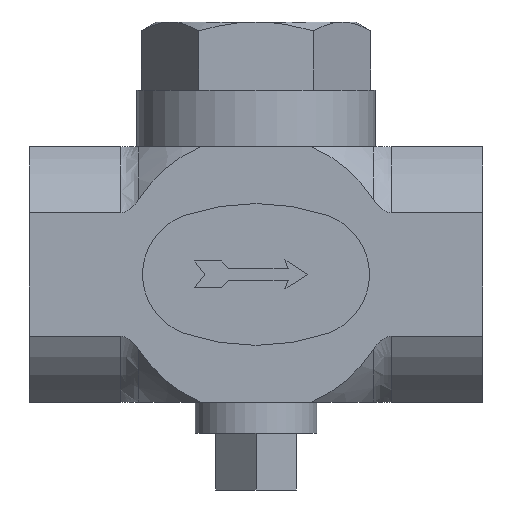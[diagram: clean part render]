
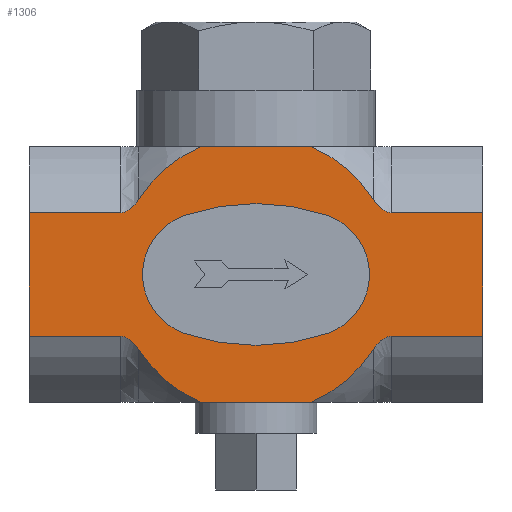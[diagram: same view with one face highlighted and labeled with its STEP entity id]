
A CAD part, front view. The second image highlights one B-rep face of the part: STEP entity #1306.
In plain terms, the highlighted planar face has unit normal (0, -1, 0).
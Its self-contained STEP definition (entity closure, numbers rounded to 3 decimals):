
#59=PLANE('',#1450);
#67=LINE('',#1990,#159);
#68=LINE('',#2016,#160);
#136=LINE('',#2302,#228);
#139=LINE('',#2311,#231);
#147=LINE('',#2341,#239);
#149=LINE('',#2344,#241);
#151=LINE('',#2347,#243);
#152=LINE('',#2348,#244);
#159=VECTOR('',#1540,16.188);
#160=VECTOR('',#1549,16.188);
#228=VECTOR('',#1765,16.188);
#231=VECTOR('',#1774,16.188);
#239=VECTOR('',#1814,19.647);
#241=VECTOR('',#1818,21.794);
#243=VECTOR('',#1822,21.794);
#244=VECTOR('',#1823,19.647);
#263=B_SPLINE_CURVE_WITH_KNOTS('',3,(#1976,#1977,#1978,#1979,#1980,#1981,
#1982,#1983),.UNSPECIFIED.,.F.,.F.,(4,2,2,4),(1.934,2.001,
2.081,2.314),.UNSPECIFIED.);
#264=B_SPLINE_CURVE_WITH_KNOTS('',3,(#1994,#1995,#1996,#1997,#1998,#1999,
#2000,#2001),.UNSPECIFIED.,.F.,.F.,(4,2,2,4),(1.555,1.788,
1.867,1.934),.UNSPECIFIED.);
#266=B_SPLINE_CURVE_WITH_KNOTS('',3,(#2023,#2024,#2025,#2026,#2027,#2028,
#2029,#2030),.UNSPECIFIED.,.F.,.F.,(4,2,2,4),(1.934,2.001,
2.081,2.314),.UNSPECIFIED.);
#269=B_SPLINE_CURVE_WITH_KNOTS('',3,(#2061,#2062,#2063,#2064,#2065,#2066,
#2067,#2068),.UNSPECIFIED.,.F.,.F.,(4,2,2,4),(1.555,1.788,
1.867,1.934),.UNSPECIFIED.);
#312=FACE_BOUND('',#472,.T.);
#313=FACE_BOUND('',#473,.T.);
#472=EDGE_LOOP('',(#1177,#1178,#1179,#1180));
#473=EDGE_LOOP('',(#1181,#1182,#1183,#1184,#1185,#1186,#1187,#1188,#1189,
#1190,#1191,#1192,#1193,#1194,#1195,#1196));
#507=CIRCLE('',#1361,24.551);
#512=CIRCLE('',#1368,24.551);
#513=CIRCLE('',#1383,38.75);
#515=CIRCLE('',#1386,11.);
#517=CIRCLE('',#1389,38.75);
#519=CIRCLE('',#1392,11.);
#539=CIRCLE('',#1443,24.551);
#542=CIRCLE('',#1447,24.551);
#574=VERTEX_POINT('',#1973);
#575=VERTEX_POINT('',#1975);
#577=VERTEX_POINT('',#1988);
#578=VERTEX_POINT('',#1992);
#579=VERTEX_POINT('',#1993);
#582=VERTEX_POINT('',#2015);
#584=VERTEX_POINT('',#2021);
#585=VERTEX_POINT('',#2022);
#588=VERTEX_POINT('',#2044);
#591=VERTEX_POINT('',#2058);
#592=VERTEX_POINT('',#2060);
#593=VERTEX_POINT('',#2071);
#618=VERTEX_POINT('',#2148);
#619=VERTEX_POINT('',#2149);
#622=VERTEX_POINT('',#2157);
#624=VERTEX_POINT('',#2163);
#658=VERTEX_POINT('',#2301);
#661=VERTEX_POINT('',#2309);
#666=VERTEX_POINT('',#2332);
#667=VERTEX_POINT('',#2336);
#703=EDGE_CURVE('',#574,#575,#263,.T.);
#707=EDGE_CURVE('',#574,#577,#67,.T.);
#708=EDGE_CURVE('',#578,#579,#264,.T.);
#712=EDGE_CURVE('',#582,#579,#68,.T.);
#715=EDGE_CURVE('',#584,#585,#266,.T.);
#719=EDGE_CURVE('',#588,#585,#507,.T.);
#723=EDGE_CURVE('',#591,#592,#269,.T.);
#726=EDGE_CURVE('',#591,#593,#512,.T.);
#763=EDGE_CURVE('',#618,#619,#513,.T.);
#767=EDGE_CURVE('',#622,#618,#515,.T.);
#770=EDGE_CURVE('',#624,#622,#517,.T.);
#773=EDGE_CURVE('',#619,#624,#519,.T.);
#824=EDGE_CURVE('',#658,#592,#136,.T.);
#829=EDGE_CURVE('',#584,#661,#139,.T.);
#841=EDGE_CURVE('',#666,#575,#539,.T.);
#844=EDGE_CURVE('',#578,#667,#542,.T.);
#846=EDGE_CURVE('',#588,#667,#147,.T.);
#848=EDGE_CURVE('',#582,#577,#149,.T.);
#850=EDGE_CURVE('',#658,#661,#151,.T.);
#851=EDGE_CURVE('',#593,#666,#152,.T.);
#1177=ORIENTED_EDGE('',*,*,#763,.T.);
#1178=ORIENTED_EDGE('',*,*,#773,.T.);
#1179=ORIENTED_EDGE('',*,*,#770,.T.);
#1180=ORIENTED_EDGE('',*,*,#767,.T.);
#1181=ORIENTED_EDGE('',*,*,#829,.T.);
#1182=ORIENTED_EDGE('',*,*,#850,.F.);
#1183=ORIENTED_EDGE('',*,*,#824,.T.);
#1184=ORIENTED_EDGE('',*,*,#723,.F.);
#1185=ORIENTED_EDGE('',*,*,#726,.T.);
#1186=ORIENTED_EDGE('',*,*,#851,.T.);
#1187=ORIENTED_EDGE('',*,*,#841,.T.);
#1188=ORIENTED_EDGE('',*,*,#703,.F.);
#1189=ORIENTED_EDGE('',*,*,#707,.T.);
#1190=ORIENTED_EDGE('',*,*,#848,.F.);
#1191=ORIENTED_EDGE('',*,*,#712,.T.);
#1192=ORIENTED_EDGE('',*,*,#708,.F.);
#1193=ORIENTED_EDGE('',*,*,#844,.T.);
#1194=ORIENTED_EDGE('',*,*,#846,.F.);
#1195=ORIENTED_EDGE('',*,*,#719,.T.);
#1196=ORIENTED_EDGE('',*,*,#715,.F.);
#1306=ADVANCED_FACE('',(#312,#313),#59,.T.);
#1361=AXIS2_PLACEMENT_3D('',#2045,#1561,#1562);
#1368=AXIS2_PLACEMENT_3D('',#2073,#1575,#1576);
#1383=AXIS2_PLACEMENT_3D('',#2150,#1641,#1642);
#1386=AXIS2_PLACEMENT_3D('',#2158,#1649,#1650);
#1389=AXIS2_PLACEMENT_3D('',#2164,#1656,#1657);
#1392=AXIS2_PLACEMENT_3D('',#2169,#1663,#1664);
#1443=AXIS2_PLACEMENT_3D('',#2333,#1801,#1802);
#1447=AXIS2_PLACEMENT_3D('',#2338,#1809,#1810);
#1450=AXIS2_PLACEMENT_3D('',#2346,#1820,#1821);
#1540=DIRECTION('',(-1.,0.,0.));
#1549=DIRECTION('',(1.,0.,0.));
#1561=DIRECTION('center_axis',(0.,-1.,0.));
#1562=DIRECTION('ref_axis',(0.,0.,1.));
#1575=DIRECTION('center_axis',(0.,-1.,0.));
#1576=DIRECTION('ref_axis',(0.,0.,1.));
#1641=DIRECTION('center_axis',(0.,1.,0.));
#1642=DIRECTION('ref_axis',(-0.324,0.,-0.946));
#1649=DIRECTION('center_axis',(0.,1.,0.));
#1650=DIRECTION('ref_axis',(0.313,0.,-0.95));
#1656=DIRECTION('center_axis',(0.,1.,0.));
#1657=DIRECTION('ref_axis',(0.324,0.,0.946));
#1663=DIRECTION('center_axis',(0.,1.,0.));
#1664=DIRECTION('ref_axis',(-0.281,0.,0.96));
#1765=DIRECTION('',(-1.,0.,0.));
#1774=DIRECTION('',(1.,0.,0.));
#1801=DIRECTION('center_axis',(0.,-1.,0.));
#1802=DIRECTION('ref_axis',(0.,0.,1.));
#1809=DIRECTION('center_axis',(0.,-1.,0.));
#1810=DIRECTION('ref_axis',(0.,0.,1.));
#1814=DIRECTION('',(-1.,0.,0.));
#1818=DIRECTION('',(0.,0.,1.));
#1820=DIRECTION('center_axis',(0.,-1.,0.));
#1821=DIRECTION('ref_axis',(0.,0.,-1.));
#1822=DIRECTION('',(0.,0.,-1.));
#1823=DIRECTION('',(-1.,0.,0.));
#1973=CARTESIAN_POINT('',(-23.812,-22.5,10.897));
#1975=CARTESIAN_POINT('',(-20.704,-22.5,13.195));
#1976=CARTESIAN_POINT('Ctrl Pts',(-23.812,-22.5,10.897));
#1977=CARTESIAN_POINT('Ctrl Pts',(-23.588,-22.5,10.897));
#1978=CARTESIAN_POINT('Ctrl Pts',(-23.322,-22.5,10.942));
#1979=CARTESIAN_POINT('Ctrl Pts',(-22.858,-22.5,11.092));
#1980=CARTESIAN_POINT('Ctrl Pts',(-22.576,-22.5,11.237));
#1981=CARTESIAN_POINT('Ctrl Pts',(-21.713,-22.5,11.819));
#1982=CARTESIAN_POINT('Ctrl Pts',(-21.123,-22.5,12.538));
#1983=CARTESIAN_POINT('Ctrl Pts',(-20.704,-22.5,13.195));
#1988=CARTESIAN_POINT('',(-40.,-22.5,10.897));
#1990=CARTESIAN_POINT('',(-36.,-22.5,10.897));
#1992=CARTESIAN_POINT('',(-20.704,-22.5,-13.195));
#1993=CARTESIAN_POINT('',(-23.812,-22.5,-10.897));
#1994=CARTESIAN_POINT('Ctrl Pts',(-20.704,-22.5,-13.195));
#1995=CARTESIAN_POINT('Ctrl Pts',(-21.123,-22.5,-12.538));
#1996=CARTESIAN_POINT('Ctrl Pts',(-21.713,-22.5,-11.819));
#1997=CARTESIAN_POINT('Ctrl Pts',(-22.576,-22.5,-11.237));
#1998=CARTESIAN_POINT('Ctrl Pts',(-22.858,-22.5,-11.092));
#1999=CARTESIAN_POINT('Ctrl Pts',(-23.322,-22.5,-10.942));
#2000=CARTESIAN_POINT('Ctrl Pts',(-23.588,-22.5,-10.897));
#2001=CARTESIAN_POINT('Ctrl Pts',(-23.812,-22.5,-10.897));
#2015=CARTESIAN_POINT('',(-40.,-22.5,-10.897));
#2016=CARTESIAN_POINT('',(-36.,-22.5,-10.897));
#2021=CARTESIAN_POINT('',(23.812,-22.5,-10.897));
#2022=CARTESIAN_POINT('',(20.704,-22.5,-13.195));
#2023=CARTESIAN_POINT('Ctrl Pts',(23.812,-22.5,-10.897));
#2024=CARTESIAN_POINT('Ctrl Pts',(23.588,-22.5,-10.897));
#2025=CARTESIAN_POINT('Ctrl Pts',(23.322,-22.5,-10.942));
#2026=CARTESIAN_POINT('Ctrl Pts',(22.858,-22.5,-11.092));
#2027=CARTESIAN_POINT('Ctrl Pts',(22.576,-22.5,-11.237));
#2028=CARTESIAN_POINT('Ctrl Pts',(21.713,-22.5,-11.819));
#2029=CARTESIAN_POINT('Ctrl Pts',(21.123,-22.5,-12.538));
#2030=CARTESIAN_POINT('Ctrl Pts',(20.704,-22.5,-13.195));
#2044=CARTESIAN_POINT('',(9.823,-22.5,-22.5));
#2045=CARTESIAN_POINT('Origin',(0.,-22.5,0.));
#2058=CARTESIAN_POINT('',(20.704,-22.5,13.195));
#2060=CARTESIAN_POINT('',(23.812,-22.5,10.897));
#2061=CARTESIAN_POINT('Ctrl Pts',(20.704,-22.5,13.195));
#2062=CARTESIAN_POINT('Ctrl Pts',(21.123,-22.5,12.538));
#2063=CARTESIAN_POINT('Ctrl Pts',(21.713,-22.5,11.819));
#2064=CARTESIAN_POINT('Ctrl Pts',(22.576,-22.5,11.237));
#2065=CARTESIAN_POINT('Ctrl Pts',(22.858,-22.5,11.092));
#2066=CARTESIAN_POINT('Ctrl Pts',(23.322,-22.5,10.942));
#2067=CARTESIAN_POINT('Ctrl Pts',(23.588,-22.5,10.897));
#2068=CARTESIAN_POINT('Ctrl Pts',(23.812,-22.5,10.897));
#2071=CARTESIAN_POINT('',(9.823,-22.5,22.5));
#2073=CARTESIAN_POINT('Origin',(0.,-22.5,0.));
#2148=CARTESIAN_POINT('',(12.568,-22.5,-10.405));
#2149=CARTESIAN_POINT('',(-12.568,-22.5,-10.405));
#2150=CARTESIAN_POINT('Origin',(0.,-22.5,26.25));
#2157=CARTESIAN_POINT('',(12.568,-22.5,10.405));
#2158=CARTESIAN_POINT('Origin',(9.,-22.5,0.));
#2163=CARTESIAN_POINT('',(-12.568,-22.5,10.405));
#2164=CARTESIAN_POINT('Origin',(0.,-22.5,-26.25));
#2169=CARTESIAN_POINT('Origin',(-9.,-22.5,0.));
#2301=CARTESIAN_POINT('',(40.,-22.5,10.897));
#2302=CARTESIAN_POINT('',(36.,-22.5,10.897));
#2309=CARTESIAN_POINT('',(40.,-22.5,-10.897));
#2311=CARTESIAN_POINT('',(36.,-22.5,-10.897));
#2332=CARTESIAN_POINT('',(-9.823,-22.5,22.5));
#2333=CARTESIAN_POINT('Origin',(0.,-22.5,0.));
#2336=CARTESIAN_POINT('',(-9.823,-22.5,-22.5));
#2338=CARTESIAN_POINT('Origin',(0.,-22.5,0.));
#2341=CARTESIAN_POINT('',(0.,-22.5,-22.5));
#2344=CARTESIAN_POINT('',(-40.,-22.5,-22.5));
#2346=CARTESIAN_POINT('Origin',(0.,-22.5,22.5));
#2347=CARTESIAN_POINT('',(40.,-22.5,-22.5));
#2348=CARTESIAN_POINT('',(0.,-22.5,22.5));
